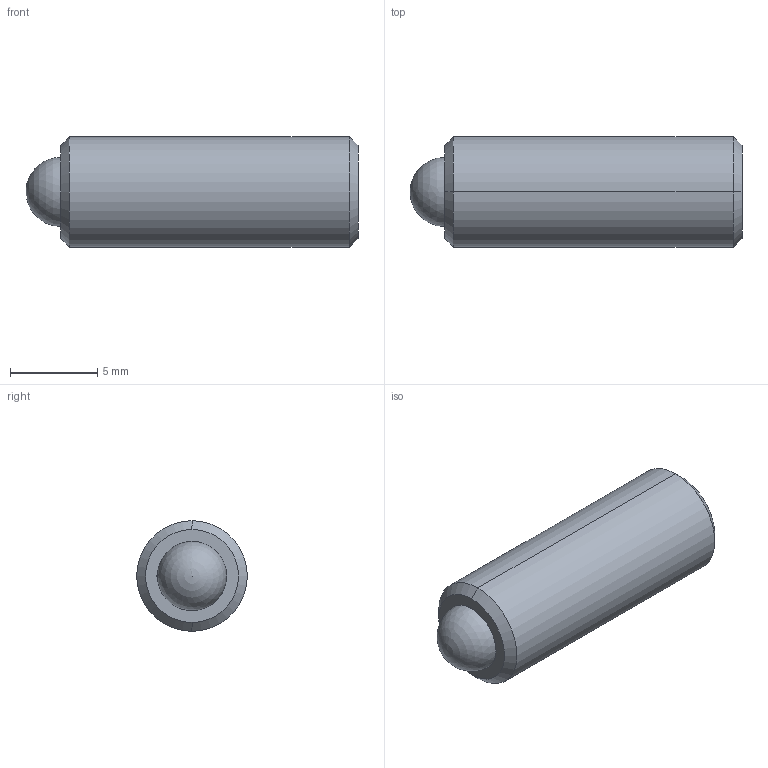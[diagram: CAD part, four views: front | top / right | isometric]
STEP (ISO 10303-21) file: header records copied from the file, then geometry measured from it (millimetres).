
FILE_DESCRIPTION (( 'STEP AP214' ), '1' );
FILE_NAME ('TS250-80-750-HV.STEP', '2013-05-09T12:56:03', ( 'workpc' ), ( 'Microsoft' ), 'SwSTEP 2.0', 'SolidWorks 2013', '' );
FILE_SCHEMA (( 'AUTOMOTIVE_DESIGN' ));
Length unit declared in the file: inch
Products named in the file (1): TS250-80-750-HV
Bounding box: 19.05 x 6.35 x 6.35 mm (x, y, z)
Volume: 532.6 mm3; surface area: 484.4 mm2
Topology: 2 solids, 2 shells, 29 faces, 69 edges, 44 vertices
Faces by surface type: cylinder 12, plane 11, cone 4, sphere 2
Entity records: 886 total; most frequent: DIRECTION 149, CARTESIAN_POINT 144, ORIENTED_EDGE 128, EDGE_CURVE 64, AXIS2_PLACEMENT_3D 58, VERTEX_POINT 41, LINE 33, VECTOR 33
